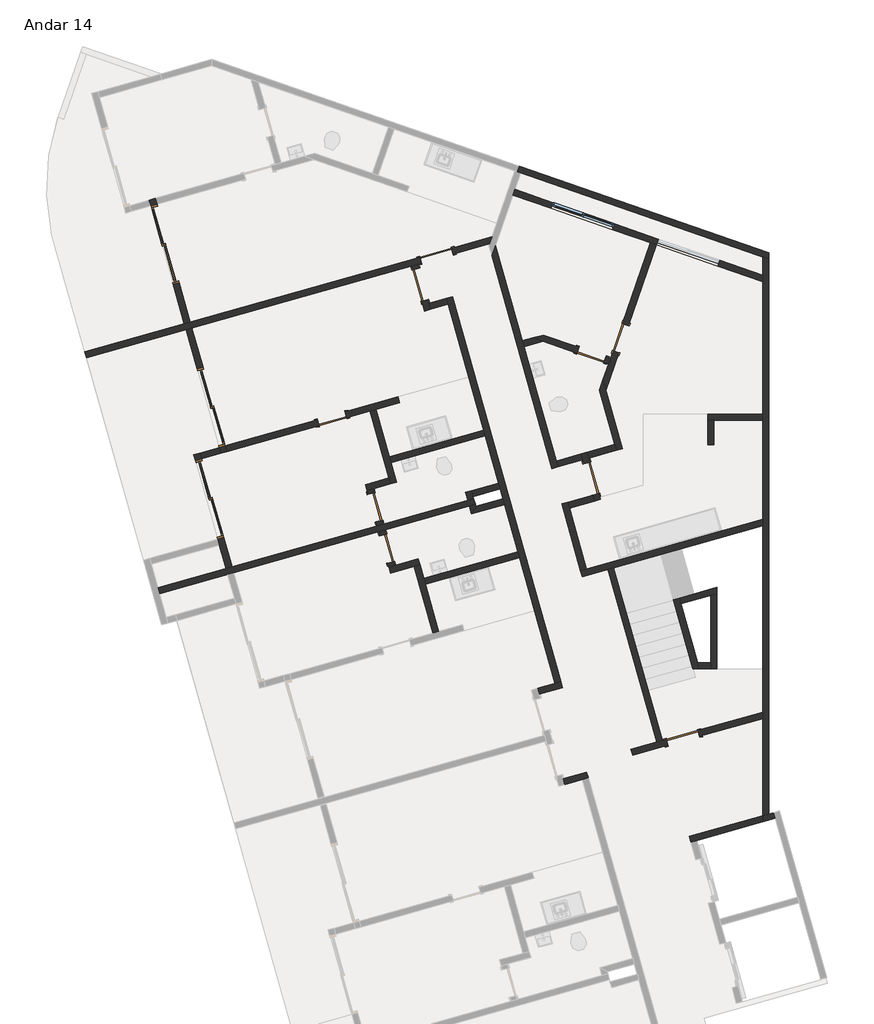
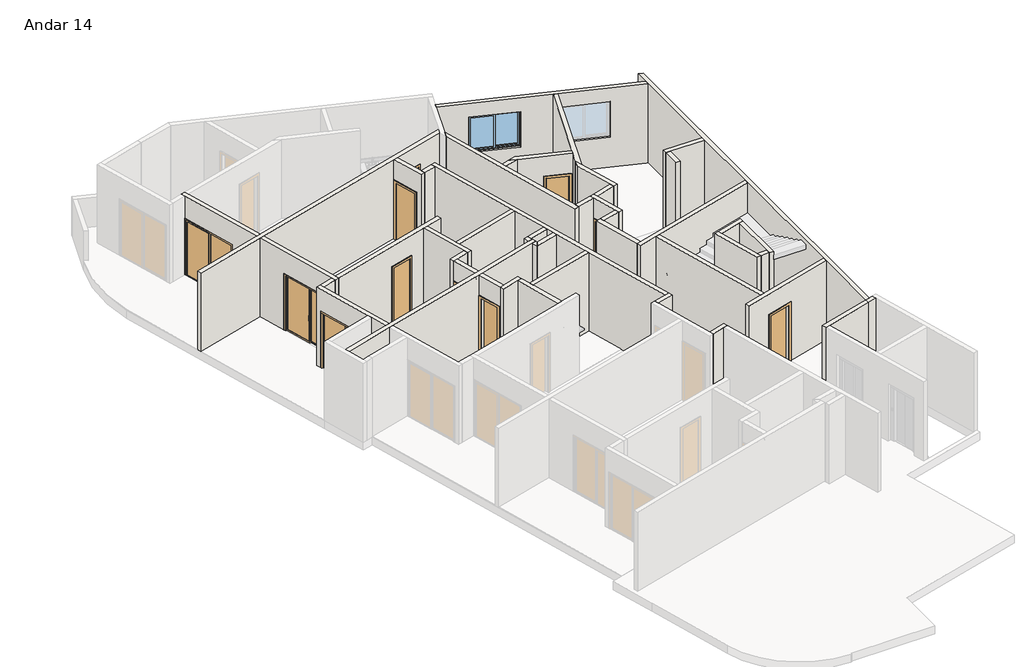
# One storey, part 2 of 3: 48 walls, 12 doors, 1 window.
"""IFC4 building model written with IfcOpenShell, lengths in millimetres."""

from ifc_helpers import new_model, si_unit, frame, origin, place, context, project, spatial, polyline, outline, extrude, faceted_brep, transform, mapped, element, save
from components import p2_80cm_9d4be4ef, p2_80cm_083652d6, p3_70cm_ef4d15e3, p3_70cm_0a698c7c, p4_correr_200cm_eaaa0877, jx_160cm_e9e36a0c

model = new_model("IFC4")

# Units and contexts
model_context = context("Model", 3, world=origin())
ifc_project = project(units=[si_unit("LENGTHUNIT", "METRE", prefix="MILLI")], contexts=[model_context])

# Site, building, storey
site = spatial("IfcSite", under=ifc_project)
building = spatial("IfcBuilding", under=site)
storey = spatial("IfcBuildingStorey", under=building, Name="Andar 14", Elevation=91350.0)

# Doors
placement = place(None, origin())
p2_80cm_shape = p2_80cm_9d4be4ef(model_context)
element("IfcDoor", 1, ObjectType="M_Folha única1 : P2 - 80CM", at=placement, inside=storey, context=model_context, shape_type="MappedRepresentation", body=[
    mapped(p2_80cm_shape, transform((-83145.1128896, 30941.0402894, 91350.0), x_axis=(-0.9623628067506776, -0.2717679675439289, 0.0), y_axis=(0.2717679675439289, -0.9623628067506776, 0.0), z_axis=(0.0, 0.0, 1.0))),
])
element("IfcDoor", 2, ObjectType="M_Folha única1 : P2 - 80CM", at=placement, inside=storey, context=model_context, shape_type="MappedRepresentation", body=[
    mapped(p2_80cm_shape, transform((-79349.4097406, 25479.1041247, 91350.0), x_axis=(-0.27176796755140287, 0.962362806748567, 0.0), y_axis=(-0.962362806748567, -0.27176796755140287, 0.0), z_axis=(0.0, 0.0, 1.0))),
])
p2_80cm_2_shape = p2_80cm_083652d6(model_context)
element("IfcDoor", 3, ObjectType="M_Folha única1 : P2 - 80CM", at=placement, inside=storey, context=model_context, shape_type="MappedRepresentation", body=[
    mapped(p2_80cm_2_shape, transform((-83542.2049222, 30231.4150941, 91350.0), x_axis=(-0.2717679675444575, 0.9623628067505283, 0.0), y_axis=(-0.9623628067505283, -0.2717679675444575, 0.0), z_axis=(0.0, 0.0, 1.0))),
])
p3_70cm_shape = p3_70cm_ef4d15e3(model_context)
element("IfcDoor", 4, ObjectType="M_Folha única1 : P3 - 70CM", at=placement, inside=storey, context=model_context, shape_type="MappedRepresentation", body=[
    mapped(p3_70cm_shape, transform((-84650.97864, 24774.7108835, 91350.0), x_axis=(0.2717679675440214, -0.9623628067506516, 0.0), y_axis=(0.9623628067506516, 0.2717679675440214, 0.0), z_axis=(0.0, 0.0, 1.0))),
])
p3_70cm_2_shape = p3_70cm_0a698c7c(model_context)
element("IfcDoor", 5, ObjectType="M_Folha única1 : P3 - 70CM", at=placement, inside=storey, context=model_context, shape_type="MappedRepresentation", body=[
    mapped(p3_70cm_2_shape, transform((-84365.6222741, 23764.2299364, 91350.0), x_axis=(-0.2717679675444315, 0.9623628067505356, 0.0), y_axis=(-0.9623628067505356, -0.2717679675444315, 0.0), z_axis=(0.0, 0.0, 1.0))),
])
element("IfcDoor", 6, ObjectType="M_Folha única1 : P3 - 70CM", at=placement, inside=storey, context=model_context, shape_type="MappedRepresentation", body=[
    mapped(p3_70cm_2_shape, transform((-85705.4317558, 26944.8211633, 91350.0), x_axis=(0.9623628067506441, 0.2717679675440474, 0.0), y_axis=(-0.2717679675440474, 0.9623628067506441, 0.0), z_axis=(0.0, 0.0, 1.0))),
])
element("IfcDoor", 7, ObjectType="M_Folha única1 : P3 - 70CM", at=placement, inside=storey, context=model_context, shape_type="MappedRepresentation", body=[
    mapped(p3_70cm_2_shape, transform((-79346.1223746, 28509.6973665, 91350.0), x_axis=(0.9449109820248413, -0.32732741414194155, 0.0), y_axis=(0.32732741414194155, 0.9449109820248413, 0.0), z_axis=(0.0, 0.0, 1.0))),
])
element("IfcDoor", 8, ObjectType="M_Folha única1 : P3 - 70CM", at=placement, inside=storey, context=model_context, shape_type="MappedRepresentation", body=[
    mapped(p3_70cm_2_shape, transform((-78626.5662556, 28921.8732895, 91350.0), x_axis=(-0.32732741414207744, -0.9449109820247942, 0.0), y_axis=(0.9449109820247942, -0.32732741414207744, 0.0), z_axis=(0.0, 0.0, 1.0))),
])
p4_correr_200cm_shape = p4_correr_200cm_eaaa0877(model_context)
element("IfcDoor", 9, ObjectType="Porta de correr dupla envidraçada sem revestimento : P4 - CORRER - 200CM", at=placement, inside=storey, context=model_context, shape_type="MappedRepresentation", body=[
    mapped(p4_correr_200cm_shape, transform((-89799.7974026, 31217.9316171, 91350.0), x_axis=(0.27176796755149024, -0.9623628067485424, 0.0), y_axis=(0.9623628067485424, 0.27176796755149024, 0.0), z_axis=(0.0, 0.0, 1.0))),
])
element("IfcDoor", 10, ObjectType="Porta de correr dupla envidraçada sem revestimento : P4 - CORRER - 200CM", at=placement, inside=storey, context=model_context, shape_type="MappedRepresentation", body=[
    mapped(p4_correr_200cm_shape, transform((-88671.9603372, 27224.125969, 91350.0), x_axis=(-0.27176796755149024, 0.9623628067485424, 0.0), y_axis=(-0.9623628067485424, -0.27176796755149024, 0.0), z_axis=(0.0, 0.0, 1.0))),
])
element("IfcDoor", 11, ObjectType="Porta de correr dupla envidraçada sem revestimento : P4 - CORRER - 200CM", at=placement, inside=storey, context=model_context, shape_type="MappedRepresentation", body=[
    mapped(p4_correr_200cm_shape, transform((-88709.3738038, 24979.4758572, 91350.0), x_axis=(-0.2717679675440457, 0.9623628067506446, 0.0), y_axis=(-0.9623628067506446, -0.2717679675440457, 0.0), z_axis=(0.0, 0.0, 1.0))),
])
element("IfcDoor", 12, ObjectType="M_Folha única1 : PCF1 - 80CM", at=placement, inside=storey, context=model_context, shape_type="MappedRepresentation", body=[
    mapped(p2_80cm_shape, transform((-77103.5502958, 19127.1105693, 91350.0), x_axis=(-0.9623628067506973, -0.2717679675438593, 0.0), y_axis=(0.2717679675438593, -0.9623628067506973, 0.0), z_axis=(0.0, 0.0, 1.0))),
])

# Walls
element("IfcWall", 13, ObjectType="Básica .15 -  Interna", at=placement, inside=storey, context=model_context, shape_type="Brep", body=[
    faceted_brep([(-82901.0804648, 29892.9118737, 91350.0), (-82860.3152697, 29748.5574527, 91350.0), (-81990.6577736, 26668.9964711, 91350.0), (-81949.8925784, 26524.6420501, 91350.0), (-81623.7710174, 25369.806682, 91350.0), (-81583.0058223, 25225.452261, 91350.0), (-81515.0638304, 24984.8615593, 91350.0), (-81474.2986352, 24840.5071383, 91350.0), (-81148.1770742, 23685.6717702, 91350.0), (-81107.4118791, 23541.3173492, 91350.0), (-80237.7543829, 20461.7563676, 91350.0), (-80237.7543829, 20461.7563676, 94250.0), (-81107.4118791, 23541.3173492, 94250.0), (-81148.1770742, 23685.6717702, 94250.0), (-81474.2986352, 24840.5071383, 94250.0), (-81515.0638304, 24984.8615593, 94250.0), (-81583.0058223, 25225.452261, 94250.0), (-81623.7710174, 25369.806682, 94250.0), (-81949.8925784, 26524.6420501, 94250.0), (-81990.6577736, 26668.9964711, 94250.0), (-82860.3152697, 29748.5574527, 94250.0), (-82901.0804648, 29892.9118737, 94250.0), (-82756.7260438, 29933.6770689, 91350.0), (-82756.7260438, 29933.6770689, 94250.0), (-80093.3999619, 20502.5215627, 94250.0), (-80093.3999619, 20502.5215627, 91350.0)], [[[0, 1, 2, 3, 4, 5, 6, 7, 8, 9, 10, 11, 12, 13, 14, 15, 16, 17, 18, 19, 20, 21]], [[22, 23, 24, 25]], [[10, 9, 8, 7, 6, 5, 4, 3, 2, 1, 0, 22, 25]], [[21, 20, 19, 18, 17, 16, 15, 14, 13, 12, 11, 24, 23]], [[0, 21, 23, 22]], [[11, 10, 25, 24]]]),
])
element("IfcWall", 14, ObjectType="Básica .15 -  Interna", at=placement, inside=storey, context=model_context, shape_type="Brep", body=[
    faceted_brep([(-83750.2661164, 30692.2138999, 91350.0), (-83723.0893197, 30595.9776193, 91350.0), (-83723.0893197, 30595.9776193, 93450.0), (-83505.6749457, 29826.0873739, 93450.0), (-83505.6749457, 29826.0873739, 91350.0), (-83437.7329538, 29585.4966722, 91350.0), (-83437.7329538, 29585.4966722, 94250.0), (-83750.2661164, 30692.2138999, 94250.0), (-83578.7348987, 30636.7428144, 93450.0), (-83578.7348987, 30636.7428144, 91350.0), (-83605.9116954, 30732.9790951, 91350.0), (-83605.9116954, 30732.9790951, 94250.0), (-83334.1437279, 29770.6162883, 94250.0), (-83293.3785328, 29626.2618673, 94250.0), (-83293.3785328, 29626.2618673, 91350.0), (-83334.1437279, 29770.6162883, 91350.0), (-83361.3205246, 29866.852569, 91350.0), (-83361.3205246, 29866.852569, 93450.0)], [[[0, 1, 2, 3, 4, 5, 6, 7]], [[8, 9, 10, 11, 12, 13, 14, 15, 16, 17]], [[10, 9, 1, 0]], [[16, 15, 14, 5, 4]], [[7, 6, 13, 12, 11]], [[6, 5, 14, 13]], [[0, 7, 11, 10]], [[2, 1, 9, 8]], [[3, 2, 8, 17]], [[4, 3, 17, 16]]]),
])
element("IfcWall", 15, ObjectType="Básica .15 -  Interna", at=placement, inside=storey, context=model_context, shape_type="SweptSolid", body=[
    extrude(outline(polyline([(-82860.3152697, 29748.5574527), (-83293.3785328, 29626.2618673), (-83334.1437279, 29770.6162883), (-82901.0804648, 29892.9118737), (-82860.3152697, 29748.5574527)])), frame((0.0, 0.0, 91350.0), z_axis=(0.0, 0.0, 1.0), x_axis=(1.0, 0.0, 0.0)), (0.0, 0.0, 1.0), 2900.0),
])
element("IfcWall", 16, ObjectType="Básica .15 -  Interna", at=placement, inside=storey, context=model_context, shape_type="Brep", body=[
    faceted_brep([(-80093.3999619, 20502.5215627, 91350.0), (-80237.7543829, 20461.7563676, 91350.0), (-80670.817646, 20339.4607822, 91350.0), (-80670.817646, 20339.4607822, 94250.0), (-80237.7543829, 20461.7563676, 94250.0), (-80093.3999619, 20502.5215627, 94250.0), (-80052.6347668, 20358.1671417, 91350.0), (-80052.6347668, 20358.1671417, 94250.0), (-80630.0524508, 20195.1063612, 94250.0), (-80630.0524508, 20195.1063612, 91350.0)], [[[0, 1, 2, 3, 4, 5]], [[6, 7, 8, 9]], [[2, 1, 0, 6, 9]], [[5, 4, 3, 8, 7]], [[3, 2, 9, 8]], [[0, 5, 7, 6]]]),
])
element("IfcWall", 17, ObjectType="Básica .15 -  Interna", at=placement, inside=storey, context=model_context, shape_type="Brep", body=[
    faceted_brep([(-80004.9861255, 17981.6719056, 91350.0), (-79571.9228624, 18103.967491, 91350.0), (-79427.5684414, 18144.7326862, 91350.0), (-79427.5684414, 18144.7326862, 94250.0), (-79571.9228624, 18103.967491, 94250.0), (-80004.9861255, 17981.6719056, 94250.0), (-80045.7513206, 18126.0263266, 91350.0), (-80045.7513206, 18126.0263266, 94250.0), (-79468.3336366, 18289.0871072, 94250.0), (-79468.3336366, 18289.0871072, 91350.0)], [[[0, 1, 2, 3, 4, 5]], [[6, 7, 8, 9]], [[2, 1, 0, 6, 9]], [[5, 4, 3, 8, 7]], [[3, 2, 9, 8]], [[0, 5, 7, 6]]]),
])
element("IfcWall", 18, ObjectType="Básica .15 -  Interna", at=placement, inside=storey, context=model_context, shape_type="Brep", body=[
    faceted_brep([(-88305.9570711, 23274.9583478, 94250.0), (-88469.0178517, 23852.3760319, 94250.0), (-88509.7830468, 23996.7304529, 94250.0), (-89094.084177, 26065.8104874, 94250.0), (-89094.084177, 26065.8104874, 91350.0), (-89053.3189819, 25921.4560664, 91350.0), (-89053.3189819, 25921.4560664, 93450.0), (-88509.7830468, 23996.7304529, 93450.0), (-88509.7830468, 23996.7304529, 91350.0), (-88469.0178517, 23852.3760319, 91350.0), (-88305.9570711, 23274.9583478, 91350.0), (-88949.729756, 26106.5756825, 94250.0), (-88908.9645609, 25962.2212615, 94250.0), (-88161.6026501, 23315.723543, 94250.0), (-88161.6026501, 23315.723543, 91350.0), (-88365.4286258, 24037.495648, 91350.0), (-88365.4286258, 24037.495648, 93450.0), (-88908.9645609, 25962.2212615, 93450.0), (-88908.9645609, 25962.2212615, 91350.0), (-88949.729756, 26106.5756825, 91350.0)], [[[0, 1, 2, 3, 4, 5, 6, 7, 8, 9, 10]], [[11, 12, 13, 14, 15, 16, 17, 18, 19]], [[4, 19, 18, 5]], [[14, 10, 9, 8, 15]], [[3, 2, 1, 0, 13, 12, 11]], [[4, 3, 11, 19]], [[0, 10, 14, 13]], [[17, 6, 5, 18]], [[6, 17, 16, 7]], [[7, 16, 15, 8]]]),
])
element("IfcWall", 19, ObjectType="Básica .15 -  Interna", at=placement, inside=storey, context=model_context, shape_type="Brep", body=[
    faceted_brep([(-89143.3190618, 29169.2341801, 94250.0), (-88328.0151592, 26282.1457598, 94250.0), (-88287.249964, 26137.7913388, 94250.0), (-88287.249964, 26137.7913388, 91350.0), (-88328.0151592, 26282.1457598, 91350.0), (-88328.0151592, 26282.1457598, 93450.0), (-88871.5510943, 28206.8713733, 93450.0), (-88871.5510943, 28206.8713733, 91350.0), (-89143.3190618, 29169.2341801, 91350.0), (-88431.604385, 26097.0261437, 94250.0), (-88472.3695802, 26241.3805647, 94250.0), (-89287.6734828, 29128.468985, 94250.0), (-89287.6734828, 29128.468985, 91350.0), (-89015.9055153, 28166.1061782, 91350.0), (-89015.9055153, 28166.1061782, 93450.0), (-88472.3695802, 26241.3805647, 93450.0), (-88472.3695802, 26241.3805647, 91350.0), (-88431.604385, 26097.0261437, 91350.0)], [[[0, 1, 2, 3, 4, 5, 6, 7, 8]], [[9, 10, 11, 12, 13, 14, 15, 16, 17]], [[3, 17, 16, 4]], [[12, 8, 7, 13]], [[2, 1, 0, 11, 10, 9]], [[3, 2, 9, 17]], [[0, 8, 12, 11]], [[6, 14, 13, 7]], [[14, 6, 5, 15]], [[15, 5, 4, 16]]]),
])
element("IfcWall", 20, ObjectType="Básica .15 -  Interna", at=placement, inside=storey, context=model_context, shape_type="Brep", body=[
    faceted_brep([(-76904.7538909, 16570.3643175, 91350.0), (-76760.3994699, 16611.1295126, 91350.0), (-75147.8282189, 17066.5141226, 91350.0), (-75147.8282189, 17066.5141226, 94250.0), (-76760.3994699, 16611.1295126, 94250.0), (-76904.7538909, 16570.3643175, 94250.0), (-76945.5190861, 16714.7187385, 91350.0), (-76945.5190861, 16714.7187385, 94250.0), (-75147.8282189, 17222.3804954, 94250.0), (-75147.8282189, 17222.3804954, 91350.0)], [[[0, 1, 2, 3, 4, 5]], [[6, 7, 8, 9]], [[2, 1, 0, 6, 9]], [[5, 4, 3, 8, 7]], [[0, 5, 7, 6]], [[3, 2, 9, 8]]]),
])
element("IfcWall", 21, ObjectType="Básica .15 -  Interna", at=placement, inside=storey, context=model_context, shape_type="Brep", body=[
    faceted_brep([(-79570.9048554, 23078.5590693, 91350.0), (-78948.2127609, 23254.4051886, 91350.0), (-78803.8582924, 23295.1703972, 91350.0), (-75147.8282189, 24327.6207947, 91350.0), (-75147.8282189, 24327.6207947, 94250.0), (-78803.8582924, 23295.1703972, 94250.0), (-78948.2127609, 23254.4051886, 94250.0), (-79570.9048554, 23078.5590693, 94250.0), (-79611.6700506, 23222.9134903, 91350.0), (-79611.6700506, 23222.9134903, 94250.0), (-79467.3156296, 23263.6786855, 94250.0), (-75147.8282189, 24483.4871675, 94250.0), (-75147.8282189, 24483.4871675, 91350.0), (-79467.3156296, 23263.6786855, 91350.0)], [[[0, 1, 2, 3, 4, 5, 6, 7]], [[8, 9, 10, 11, 12, 13]], [[3, 2, 1, 0, 8, 13, 12]], [[7, 6, 5, 4, 11, 10, 9]], [[0, 7, 9, 8]], [[4, 3, 12, 11]]]),
])
element("IfcWall", 22, ObjectType="Básica .15 -  Interna", at=placement, inside=storey, context=model_context, shape_type="SweptSolid", body=[
    extrude(outline(polyline([(-77749.4687652, 19022.6385875), (-78948.2127609, 23254.4051886), (-78803.8582924, 23295.1703972), (-77605.1142967, 19063.4037961), (-77749.4687652, 19022.6385875)])), frame((0.0, 0.0, 91350.0), z_axis=(0.0, 0.0, 1.0), x_axis=(1.0, 0.0, 0.0)), (0.0, 0.0, 1.0), 2900.0),
])
element("IfcWall", 23, ObjectType="Básica .15 -  Interna", at=placement, inside=storey, context=model_context, shape_type="Brep", body=[
    faceted_brep([(-77508.878016, 19090.5805928, 93450.0), (-77508.878016, 19090.5805928, 91350.0), (-77605.1142967, 19063.4037961, 91350.0), (-77749.4687652, 19022.6385875, 91350.0), (-78375.5945972, 18845.8227925, 91350.0), (-78375.5945972, 18845.8227925, 94250.0), (-77749.4687652, 19022.6385875, 94250.0), (-77605.1142967, 19063.4037961, 94250.0), (-75147.8282189, 19757.3329862, 94250.0), (-75147.8282189, 19757.3329862, 91350.0), (-76738.9877706, 19307.9949669, 91350.0), (-76738.9877706, 19307.9949669, 93450.0), (-78334.829402, 18701.4683715, 91350.0), (-77468.1128209, 18946.2261718, 91350.0), (-77468.1128209, 18946.2261718, 93450.0), (-76698.2225755, 19163.6405459, 93450.0), (-76698.2225755, 19163.6405459, 91350.0), (-75147.8282189, 19601.4666134, 91350.0), (-75147.8282189, 19601.4666134, 94250.0), (-78334.829402, 18701.4683715, 94250.0)], [[[0, 1, 2, 3, 4, 5, 6, 7, 8, 9, 10, 11]], [[12, 13, 14, 15, 16, 17, 18, 19]], [[10, 9, 17, 16]], [[4, 3, 2, 1, 13, 12]], [[5, 4, 12, 19]], [[8, 7, 6, 5, 19, 18]], [[14, 13, 1, 0]], [[15, 14, 0, 11]], [[16, 15, 11, 10]], [[9, 8, 18, 17]]]),
])
element("IfcWall", 24, ObjectType="Básica .15 - Externa", at=placement, inside=storey, context=model_context, shape_type="Brep", body=[
    faceted_brep([(-75147.8282189, 30909.9128092, 91350.0), (-75147.8282189, 30461.6117638, 91350.0), (-75147.8282189, 30302.8666514, 91350.0), (-75147.8282189, 27060.8243598, 91350.0), (-75147.8282189, 26910.8243598, 91350.0), (-75147.8282189, 24483.4871675, 91350.0), (-75147.8282189, 24327.6207947, 91350.0), (-75147.8282189, 19757.3329862, 91350.0), (-75147.8282189, 19601.4666134, 91350.0), (-75147.8282189, 17222.3804954, 91350.0), (-75147.8282189, 17222.3804954, 94250.0), (-75147.8282189, 19601.4666134, 94250.0), (-75147.8282189, 19757.3329862, 94250.0), (-75147.8282189, 24327.6207947, 94250.0), (-75147.8282189, 24483.4871675, 94250.0), (-75147.8282189, 26910.8243598, 94250.0), (-75147.8282189, 27060.8243598, 94250.0), (-75147.8282189, 30302.8666514, 94250.0), (-75147.8282189, 30461.6117638, 94250.0), (-75147.8282189, 30909.9128092, 94250.0), (-74997.8282189, 30857.9511821, 91350.0), (-74997.8282189, 30857.9511821, 92650.0), (-74997.8282189, 30857.9511821, 94250.0), (-74997.8282189, 17264.7399828, 94250.0), (-74997.8282189, 17264.7399828, 91350.0)], [[[0, 1, 2, 3, 4, 5, 6, 7, 8, 9, 10, 11, 12, 13, 14, 15, 16, 17, 18, 19]], [[20, 21, 22, 23, 24]], [[9, 8, 7, 6, 5, 4, 3, 2, 1, 0, 20, 24]], [[19, 18, 17, 16, 15, 14, 13, 12, 11, 10, 23, 22]], [[10, 9, 24, 23]], [[0, 19, 22, 21, 20]]]),
])
element("IfcWall", 25, ObjectType="Básica .15 -  Interna", at=placement, inside=storey, context=model_context, shape_type="Brep", body=[
    faceted_brep([(-80073.6755954, 24858.9302618, 91350.0), (-79611.6700506, 23222.9134903, 91350.0), (-79611.6700506, 23222.9134903, 94250.0), (-80073.6755954, 24858.9302618, 94250.0), (-79929.3211744, 24899.695457, 91350.0), (-79929.3211744, 24899.695457, 94250.0), (-79888.5559793, 24755.3410359, 94250.0), (-79467.3156296, 23263.6786855, 94250.0), (-79467.3156296, 23263.6786855, 91350.0), (-79888.5559793, 24755.3410359, 91350.0)], [[[0, 1, 2, 3]], [[4, 5, 6, 7, 8, 9]], [[1, 0, 4, 9, 8]], [[3, 2, 7, 6, 5]], [[0, 3, 5, 4]], [[2, 1, 8, 7]]]),
])
element("IfcWall", 26, ObjectType="Básica .15 -  Interna", at=placement, inside=storey, context=model_context, shape_type="Brep", body=[
    faceted_brep([(-79888.5559793, 24755.3410359, 91350.0), (-79272.1145689, 24929.4219834, 91350.0), (-79272.1145689, 24929.4219834, 94250.0), (-79888.5559793, 24755.3410359, 94250.0), (-79929.3211744, 24899.695457, 91350.0), (-79929.3211744, 24899.695457, 94250.0), (-79312.8797641, 25073.7764044, 94250.0), (-79312.8797641, 25073.7764044, 93450.0), (-79312.8797641, 25073.7764044, 91350.0)], [[[0, 1, 2, 3]], [[4, 5, 6, 7, 8]], [[1, 0, 4, 8]], [[3, 2, 6, 5]], [[0, 3, 5, 4]], [[2, 1, 8, 7, 6]]]),
])
element("IfcWall", 27, ObjectType="Básica .15 -  Interna", at=placement, inside=storey, context=model_context, shape_type="Brep", body=[
    faceted_brep([(-79598.23613, 26084.2573515, 91350.0), (-79557.4709349, 25939.9029305, 91350.0), (-79530.2941381, 25843.6666498, 91350.0), (-79530.2941381, 25843.6666498, 93450.0), (-79312.8797641, 25073.7764044, 93450.0), (-79312.8797641, 25073.7764044, 91350.0), (-79272.1145689, 24929.4219834, 91350.0), (-79272.1145689, 24929.4219834, 94250.0), (-79312.8797641, 25073.7764044, 94250.0), (-79557.4709349, 25939.9029305, 94250.0), (-79598.23613, 26084.2573515, 94250.0), (-79385.9397171, 25884.4318449, 93450.0), (-79385.9397171, 25884.4318449, 91350.0), (-79413.1165138, 25980.6681256, 91350.0), (-79453.881709, 26125.0225466, 91350.0), (-79453.881709, 26125.0225466, 94250.0), (-79413.1165138, 25980.6681256, 94250.0), (-79127.7601479, 24970.1871785, 94250.0), (-79127.7601479, 24970.1871785, 91350.0), (-79168.5253431, 25114.5415995, 91350.0), (-79168.5253431, 25114.5415995, 93450.0)], [[[0, 1, 2, 3, 4, 5, 6, 7, 8, 9, 10]], [[11, 12, 13, 14, 15, 16, 17, 18, 19, 20]], [[19, 18, 6, 5]], [[14, 13, 12, 2, 1, 0]], [[10, 9, 8, 7, 17, 16, 15]], [[7, 6, 18, 17]], [[0, 10, 15, 14]], [[3, 2, 12, 11]], [[4, 3, 11, 20]], [[5, 4, 20, 19]]]),
])
element("IfcWall", 28, ObjectType="Básica .15 -  Interna", at=placement, inside=storey, context=model_context, shape_type="Brep", body=[
    faceted_brep([(-81789.2550074, 30934.0017027, 91350.0), (-80318.2667662, 25725.0567879, 91350.0), (-80318.2667662, 25725.0567879, 94250.0), (-81789.2550074, 30934.0017027, 94250.0), (-81703.3880158, 31181.8778654, 91350.0), (-81703.3880158, 31181.8778654, 94250.0), (-81045.1503443, 28850.9797144, 94250.0), (-81004.3851492, 28706.6252933, 94250.0), (-80214.6775403, 25910.176404, 94250.0), (-80173.9123452, 25765.821983, 94250.0), (-80173.9123452, 25765.821983, 91350.0), (-80214.6775403, 25910.176404, 91350.0), (-81004.3851492, 28706.6252933, 91350.0), (-81045.1503443, 28850.9797144, 91350.0)], [[[0, 1, 2, 3]], [[4, 5, 6, 7, 8, 9, 10, 11, 12, 13]], [[1, 0, 4, 13, 12, 11, 10]], [[3, 2, 9, 8, 7, 6, 5]], [[0, 3, 5, 4]], [[2, 1, 10, 9]]]),
])
element("IfcWall", 29, ObjectType="Básica .15 -  Interna", at=placement, inside=storey, context=model_context, shape_type="Brep", body=[
    faceted_brep([(-88908.9645609, 25962.2212615, 91350.0), (-88431.604385, 26097.0261437, 91350.0), (-88431.604385, 26097.0261437, 94250.0), (-88908.9645609, 25962.2212615, 94250.0), (-88908.9645609, 25962.2212615, 93450.0), (-88949.729756, 26106.5756825, 91350.0), (-88949.729756, 26106.5756825, 94250.0), (-88472.3695802, 26241.3805647, 94250.0), (-88472.3695802, 26241.3805647, 91350.0)], [[[0, 1, 2, 3, 4]], [[5, 6, 7, 8]], [[1, 0, 5, 8]], [[3, 2, 7, 6]], [[0, 4, 3, 6, 5]], [[2, 1, 8, 7]]]),
])
element("IfcWall", 30, ObjectType="Básica .15 -  Interna", at=placement, inside=storey, context=model_context, shape_type="SweptSolid", body=[
    extrude(outline(polyline([(-79557.4709349, 25939.9029305), (-80173.9123452, 25765.821983), (-80214.6775403, 25910.176404), (-79598.23613, 26084.2573515), (-79557.4709349, 25939.9029305)])), frame((0.0, 0.0, 91350.0), z_axis=(0.0, 0.0, 1.0), x_axis=(1.0, 0.0, 0.0)), (0.0, 0.0, 1.0), 2900.0),
])
element("IfcWall", 31, ObjectType="Básica .15 -  Interna", at=placement, inside=storey, context=model_context, shape_type="Brep", body=[
    faceted_brep([(-91725.2428613, 28440.1077234, 91350.0), (-89287.6734828, 29128.468985, 91350.0), (-89143.3190618, 29169.2341801, 91350.0), (-83750.2661164, 30692.2138999, 91350.0), (-83605.9116954, 30732.9790951, 91350.0), (-83509.6754148, 30760.1558918, 91350.0), (-83509.6754148, 30760.1558918, 93450.0), (-82739.7851694, 30977.5702659, 93450.0), (-82739.7851694, 30977.5702659, 91350.0), (-81845.4155775, 31230.1371819, 91350.0), (-81845.4155775, 31230.1371819, 94250.0), (-83605.9116954, 30732.9790951, 94250.0), (-83750.2661164, 30692.2138999, 94250.0), (-89143.3190618, 29169.2341801, 94250.0), (-89287.6734828, 29128.468985, 94250.0), (-91725.2428613, 28440.1077234, 94250.0), (-83550.4406099, 30904.5103128, 93450.0), (-83550.4406099, 30904.5103128, 91350.0), (-89184.084257, 29313.5886011, 91350.0), (-89328.438678, 29272.823406, 91350.0), (-91766.0080564, 28584.4621444, 91350.0), (-91766.0080564, 28584.4621444, 94250.0), (-89328.438678, 29272.823406, 94250.0), (-89184.084257, 29313.5886011, 94250.0), (-81785.5670817, 31402.9045654, 94250.0), (-81785.5670817, 31402.9045654, 91350.0), (-82780.5503645, 31121.9246869, 91350.0), (-82780.5503645, 31121.9246869, 93450.0)], [[[0, 1, 2, 3, 4, 5, 6, 7, 8, 9, 10, 11, 12, 13, 14, 15]], [[16, 17, 18, 19, 20, 21, 22, 23, 24, 25, 26, 27]], [[26, 25, 9, 8]], [[20, 19, 18, 17, 5, 4, 3, 2, 1, 0]], [[15, 14, 13, 12, 11, 10, 24, 23, 22, 21]], [[0, 15, 21, 20]], [[10, 9, 25, 24]], [[6, 5, 17, 16]], [[7, 6, 16, 27]], [[8, 7, 27, 26]]]),
])
element("IfcWall", 32, ObjectType="Básica .15 -  Interna", at=placement, inside=storey, context=model_context, shape_type="Brep", body=[
    faceted_brep([(-90040.1533547, 32345.0314424, 94250.0), (-89999.3881596, 32200.6770214, 94250.0), (-89184.084257, 29313.5886011, 94250.0), (-89184.084257, 29313.5886011, 91350.0), (-89455.8522245, 30275.9514079, 91350.0), (-89455.8522245, 30275.9514079, 93450.0), (-89999.3881596, 32200.6770214, 93450.0), (-89999.3881596, 32200.6770214, 91350.0), (-90040.1533547, 32345.0314424, 91350.0), (-89328.438678, 29272.823406, 94250.0), (-90143.7425806, 32159.9118263, 94250.0), (-90184.5077758, 32304.2662473, 94250.0), (-90184.5077758, 32304.2662473, 91350.0), (-90143.7425806, 32159.9118262, 91350.0), (-90143.7425806, 32159.9118262, 93450.0), (-89600.2066455, 30235.1862128, 93450.0), (-89600.2066455, 30235.1862128, 91350.0), (-89328.438678, 29272.823406, 91350.0)], [[[0, 1, 2, 3, 4, 5, 6, 7, 8]], [[9, 10, 11, 12, 13, 14, 15, 16, 17]], [[12, 8, 7, 13]], [[3, 17, 16, 4]], [[2, 1, 0, 11, 10, 9]], [[0, 8, 12, 11]], [[3, 2, 9, 17]], [[15, 5, 4, 16]], [[5, 15, 14, 6]], [[6, 14, 13, 7]]]),
])
element("IfcWall", 33, ObjectType="Básica .15 -  Interna", at=placement, inside=storey, context=model_context, shape_type="Brep", body=[
    faceted_brep([(-89936.6922366, 22658.5779377, 91350.0), (-88265.191876, 23130.6039268, 91350.0), (-88120.837455, 23171.369122, 91350.0), (-84560.09507, 24176.9106019, 91350.0), (-84415.740649, 24217.675797, 91350.0), (-82192.6825654, 24845.459802, 91350.0), (-82192.6825654, 24845.459802, 94250.0), (-84415.740649, 24217.675797, 94250.0), (-84560.09507, 24176.9106019, 94250.0), (-88120.837455, 23171.369122, 94250.0), (-88265.191876, 23130.6039268, 94250.0), (-89936.6922366, 22658.5779377, 94250.0), (-89977.4574318, 22802.9323587, 91350.0), (-89977.4574318, 22802.9323587, 94250.0), (-88305.9570711, 23274.9583478, 94250.0), (-88161.6026501, 23315.723543, 94250.0), (-84600.8602651, 24321.2650229, 94250.0), (-84456.5058441, 24362.030218, 94250.0), (-82233.4477605, 24989.814223, 94250.0), (-82233.4477605, 24989.814223, 91350.0), (-84456.5058441, 24362.030218, 91350.0), (-84600.8602651, 24321.2650229, 91350.0), (-88161.6026501, 23315.723543, 91350.0), (-88305.9570711, 23274.9583478, 91350.0)], [[[0, 1, 2, 3, 4, 5, 6, 7, 8, 9, 10, 11]], [[12, 13, 14, 15, 16, 17, 18, 19, 20, 21, 22, 23]], [[5, 4, 3, 2, 1, 0, 12, 23, 22, 21, 20, 19]], [[6, 5, 19, 18]], [[11, 10, 9, 8, 7, 6, 18, 17, 16, 15, 14, 13]], [[0, 11, 13, 12]]]),
])
element("IfcWall", 34, ObjectType="Básica .15 -  Interna", at=placement, inside=storey, context=model_context, shape_type="Brep", body=[
    faceted_brep([(-81272.8781344, 32424.6503839, 91350.0), (-77897.5766162, 31255.4093243, 91350.0), (-77755.8399689, 31206.3102121, 91350.0), (-75147.8282189, 30302.8666514, 91350.0), (-75147.8282189, 30302.8666514, 94250.0), (-77755.8399689, 31206.3102121, 94250.0), (-77897.5766162, 31255.4093243, 94250.0), (-81272.8781344, 32424.6503839, 94250.0), (-78829.2985897, 31578.1679228, 92450.0), (-80341.1561609, 32101.8917854, 92450.0), (-80341.1561609, 32101.8917854, 93750.0), (-78829.2985897, 31578.1679228, 93750.0), (-76243.9823976, 30682.5863495, 92450.0), (-77755.8399689, 31206.3102121, 92450.0), (-77755.8399689, 31206.3102121, 93750.0), (-76243.9823976, 30682.5863495, 93750.0), (-81223.7790223, 32566.3870312, 91350.0), (-81223.7790223, 32566.3870312, 94250.0), (-75147.8282189, 30461.6117638, 94250.0), (-75147.8282189, 30461.6117638, 91350.0), (-78780.1994776, 31719.9045701, 92450.0), (-78780.1994776, 31719.9045701, 93750.0), (-80292.0570488, 32243.6284327, 93750.0), (-80292.0570488, 32243.6284327, 92450.0), (-76194.8832855, 30824.3229968, 92450.0), (-76194.8832855, 30824.3229968, 93750.0), (-77706.7408568, 31348.0468595, 93750.0), (-77706.7408568, 31348.0468595, 92450.0)], [[[0, 1, 2, 3, 4, 5, 6, 7], [8, 9, 10, 11], [12, 13, 14, 15]], [[16, 17, 18, 19], [20, 21, 22, 23], [24, 25, 26, 27]], [[3, 2, 1, 0, 16, 19]], [[7, 6, 5, 4, 18, 17]], [[0, 7, 17, 16]], [[21, 20, 8, 11]], [[22, 21, 11, 10]], [[23, 22, 10, 9]], [[20, 23, 9, 8]], [[25, 24, 12, 15]], [[26, 25, 15, 14]], [[27, 26, 14, 13]], [[24, 27, 13, 12]], [[4, 3, 19, 18]]]),
])
element("IfcWall", 35, ObjectType="Básica .15 - Externa", at=placement, inside=storey, context=model_context, shape_type="Brep", body=[
    faceted_brep([(-81156.3583355, 32991.3328194, 92650.0), (-81156.3583355, 32991.3328194, 91350.0), (-81156.3583355, 32991.3328194, 91050.0), (-81085.1216301, 32966.655652, 91050.0), (-74997.8282189, 30857.9511821, 91050.0), (-74997.8282189, 30857.9511821, 91350.0), (-74997.8282189, 30857.9511821, 92650.0), (-81085.1216301, 32966.655652, 92650.0), (-81107.2592234, 33133.0694667, 91050.0), (-81107.2592234, 33133.0694667, 91350.0), (-81107.2592234, 33133.0694667, 92650.0), (-81036.022518, 33108.3922993, 92650.0), (-74997.8282189, 31016.6962944, 92650.0), (-74997.8282189, 31016.6962944, 91050.0), (-81036.022518, 33108.3922993, 91050.0)], [[[0, 1, 2, 3, 4, 5, 6, 7]], [[8, 9, 10, 11, 12, 13, 14]], [[4, 3, 2, 8, 14, 13]], [[0, 7, 6, 12, 11, 10]], [[0, 10, 9, 8, 2, 1]], [[4, 13, 12, 6, 5]]]),
])
element("IfcWall", 36, ObjectType="Básica .15 -  Interna", at=placement, inside=storey, context=model_context, shape_type="SweptSolid", body=[
    extrude(outline(polyline([(-82179.094167, 24797.3416617), (-81515.0638304, 24984.8615593), (-81474.2986352, 24840.5071383), (-82282.6833929, 24612.2220455), (-82179.094167, 24797.3416617)])), frame((0.0, 0.0, 91350.0), z_axis=(0.0, 0.0, 1.0), x_axis=(1.0, 0.0, 0.0)), (0.0, 0.0, 1.0), 2900.0),
])
element("IfcWall", 37, ObjectType="Básica .15 -  Interna", at=placement, inside=storey, context=model_context, shape_type="SweptSolid", body=[
    extrude(outline(polyline([(-82192.6825654, 24845.459802), (-82179.094167, 24797.3416617), (-82282.6833929, 24612.2220455), (-82337.0369864, 24804.6946069), (-82192.6825654, 24845.459802)])), frame((0.0, 0.0, 91350.0), z_axis=(0.0, 0.0, 1.0), x_axis=(1.0, 0.0, 0.0)), (0.0, 0.0, 1.0), 2900.0),
])
element("IfcWall", 38, ObjectType="Básica .15 -  Interna", at=placement, inside=storey, context=model_context, shape_type="Brep", body=[
    faceted_brep([(-83593.7317942, 23514.6100515, 91350.0), (-84171.1494782, 23351.5492709, 91350.0), (-84315.5038992, 23310.7840758, 91350.0), (-84315.5038992, 23310.7840758, 94250.0), (-84171.1494782, 23351.5492709, 94250.0), (-83593.7317942, 23514.6100515, 94250.0), (-83552.966599, 23370.2556304, 91350.0), (-83552.966599, 23370.2556304, 94250.0), (-83697.32102, 23329.4904353, 94250.0), (-84274.7387041, 23166.4296548, 94250.0), (-84274.7387041, 23166.4296548, 91350.0), (-83697.32102, 23329.4904353, 91350.0)], [[[0, 1, 2, 3, 4, 5]], [[6, 7, 8, 9, 10, 11]], [[2, 1, 0, 6, 11, 10]], [[5, 4, 3, 9, 8, 7]], [[0, 5, 7, 6]], [[3, 2, 10, 9]]]),
])
element("IfcWall", 39, ObjectType="Básica .15 -  Interna", at=placement, inside=storey, context=model_context, shape_type="Brep", body=[
    faceted_brep([(-83090.9610542, 21734.238859, 91350.0), (-83417.0826153, 22889.0742271, 91350.0), (-83457.8478104, 23033.4286481, 91350.0), (-83552.966599, 23370.2556304, 91350.0), (-83552.966599, 23370.2556304, 94250.0), (-83457.8478104, 23033.4286481, 94250.0), (-83417.0826153, 22889.0742271, 94250.0), (-83090.9610542, 21734.238859, 94250.0), (-83235.3154752, 21693.4736638, 91350.0), (-83235.3154752, 21693.4736638, 94250.0), (-83697.32102, 23329.4904353, 94250.0), (-83697.32102, 23329.4904353, 91350.0)], [[[0, 1, 2, 3, 4, 5, 6, 7]], [[8, 9, 10, 11]], [[3, 2, 1, 0, 8, 11]], [[7, 6, 5, 4, 10, 9]], [[0, 7, 9, 8]], [[4, 3, 11, 10]]]),
])
element("IfcWall", 40, ObjectType="Básica .15 -  Interna", at=placement, inside=storey, context=model_context, shape_type="SweptSolid", body=[
    extrude(outline(polyline([(-83457.8478104, 23033.4286481), (-81148.1770742, 23685.6717702), (-81107.4118791, 23541.3173492), (-83417.0826153, 22889.0742271), (-83457.8478104, 23033.4286481)])), frame((0.0, 0.0, 91350.0), z_axis=(0.0, 0.0, 1.0), x_axis=(1.0, 0.0, 0.0)), (0.0, 0.0, 1.0), 2900.0),
])
element("IfcWall", 41, ObjectType="Básica .15 -  Interna", at=placement, inside=storey, context=model_context, shape_type="SweptSolid", body=[
    extrude(outline(polyline([(150.0, 0.0), (250.0, 0.0), (250.0, -2100.0), (950.0, -2100.0), (950.0, 0.0), (1050.0, 0.0), (1050.0, -2900.0), (150.0, -2900.0), (150.0, 0.0)])), frame((-84600.8602651, 24321.2650229, 91350.0), z_axis=(0.9623628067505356, 0.2717679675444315, 0.0), x_axis=(0.2717679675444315, -0.9623628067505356, 0.0)), (0.0, 0.0, 1.0), 150.0),
])
element("IfcWall", 42, ObjectType="Básica .15 -  Interna", at=placement, inside=storey, context=model_context, shape_type="Brep", body=[
    faceted_brep([(-84770.8044918, 27130.823522, 91350.0), (-84308.798947, 25494.8067505, 91350.0), (-84268.0337519, 25350.4523295, 91350.0), (-84268.0337519, 25350.4523295, 94250.0), (-84308.798947, 25494.8067505, 94250.0), (-84770.8044918, 27130.823522, 94250.0), (-84626.4500708, 27171.5887171, 91350.0), (-84626.4500708, 27171.5887171, 94250.0), (-84300.3285098, 26016.753349, 94250.0), (-84259.5633146, 25872.398928, 94250.0), (-84123.6793309, 25391.2175246, 94250.0), (-84123.6793309, 25391.2175246, 91350.0), (-84259.5633146, 25872.398928, 91350.0), (-84300.3285098, 26016.753349, 91350.0)], [[[0, 1, 2, 3, 4, 5]], [[6, 7, 8, 9, 10, 11, 12, 13]], [[2, 1, 0, 6, 13, 12, 11]], [[5, 4, 3, 10, 9, 8, 7]], [[3, 2, 11, 10]], [[0, 5, 7, 6]]]),
])
element("IfcWall", 43, ObjectType="Básica .15 -  Interna", at=placement, inside=storey, context=model_context, shape_type="SweptSolid", body=[
    extrude(outline(polyline([(-84300.3285098, 26016.753349), (-81990.6577736, 26668.9964711), (-81949.8925784, 26524.6420501), (-84259.5633146, 25872.398928), (-84300.3285098, 26016.753349)])), frame((0.0, 0.0, 91350.0), z_axis=(0.0, 0.0, 1.0), x_axis=(1.0, 0.0, 0.0)), (0.0, 0.0, 1.0), 2900.0),
])
element("IfcWall", 44, ObjectType="Básica .15 -  Interna", at=placement, inside=storey, context=model_context, shape_type="Brep", body=[
    faceted_brep([(-84308.798947, 25494.8067505, 91350.0), (-84886.2166311, 25331.74597, 91350.0), (-84886.2166311, 25331.74597, 94250.0), (-84308.798947, 25494.8067505, 94250.0), (-84268.0337519, 25350.4523295, 91350.0), (-84268.0337519, 25350.4523295, 94250.0), (-84701.0970149, 25228.1567441, 94250.0), (-84845.4514359, 25187.391549, 94250.0), (-84845.4514359, 25187.391549, 91350.0), (-84701.0970149, 25228.1567441, 91350.0)], [[[0, 1, 2, 3]], [[4, 5, 6, 7, 8, 9]], [[1, 0, 4, 9, 8]], [[3, 2, 7, 6, 5]], [[2, 1, 8, 7]], [[0, 3, 5, 4]]]),
])
element("IfcWall", 45, ObjectType="Básica .15 -  Interna", at=placement, inside=storey, context=model_context, shape_type="SweptSolid", body=[
    extrude(outline(polyline([(800.0, -2100.0), (800.0, 0.0), (900.0, 0.0), (900.0, -2900.0), (0.0, -2900.0), (0.0, 0.0), (100.0, 0.0), (100.0, -2100.0), (800.0, -2100.0)])), frame((-84845.4514359, 25187.391549, 91350.0), z_axis=(0.9623628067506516, 0.2717679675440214, 0.0), x_axis=(0.2717679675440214, -0.9623628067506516, 0.0)), (0.0, 0.0, 1.0), 150.0),
])
element("IfcWall", 46, ObjectType="Básica .15 -  Interna", at=placement, inside=storey, context=model_context, shape_type="Brep", body=[
    faceted_brep([(-82432.1557751, 25141.5215893, 91350.0), (-82377.8021816, 24949.0490279, 91350.0), (-82377.8021816, 24949.0490279, 94250.0), (-82432.1557751, 25141.5215893, 94250.0), (-82287.801354, 25182.2867844, 91350.0), (-82287.801354, 25182.2867844, 94250.0), (-82247.0361589, 25037.9323634, 94250.0), (-82233.4477605, 24989.814223, 94250.0), (-82233.4477605, 24989.814223, 91350.0), (-82247.0361589, 25037.9323634, 91350.0)], [[[0, 1, 2, 3]], [[4, 5, 6, 7, 8, 9]], [[1, 0, 4, 9, 8]], [[2, 1, 8, 7]], [[3, 2, 7, 6, 5]], [[0, 3, 5, 4]]]),
])
element("IfcWall", 47, ObjectType="Básica .15 -  Interna", at=placement, inside=storey, context=model_context, shape_type="SweptSolid", body=[
    extrude(outline(polyline([(-81583.0058223, 25225.452261), (-82247.0361589, 25037.9323634), (-82287.801354, 25182.2867844), (-81623.7710174, 25369.806682), (-81583.0058223, 25225.452261)])), frame((0.0, 0.0, 91350.0), z_axis=(0.0, 0.0, 1.0), x_axis=(1.0, 0.0, 0.0)), (0.0, 0.0, 1.0), 2900.0),
])
element("IfcWall", 48, ObjectType="Básica .15 -  Interna", at=placement, inside=storey, context=model_context, shape_type="Brep", body=[
    faceted_brep([(-76493.6479314, 26910.8243598, 91350.0), (-76343.6479314, 26910.8243598, 91350.0), (-75147.8282189, 26910.8243598, 91350.0), (-75147.8282189, 26910.8243598, 94250.0), (-76343.6479314, 26910.8243598, 94250.0), (-76493.6479314, 26910.8243598, 94250.0), (-76493.6479314, 27060.8243598, 91350.0), (-76493.6479314, 27060.8243598, 94250.0), (-75147.8282189, 27060.8243598, 94250.0), (-75147.8282189, 27060.8243598, 91350.0)], [[[0, 1, 2, 3, 4, 5]], [[6, 7, 8, 9]], [[2, 1, 0, 6, 9]], [[5, 4, 3, 8, 7]], [[0, 5, 7, 6]], [[3, 2, 9, 8]]]),
])
element("IfcWall", 49, ObjectType="Básica .15 -  Interna", at=placement, inside=storey, context=model_context, shape_type="SweptSolid", body=[
    extrude(outline(polyline([(-76343.6479314, 26910.8243598), (-76343.6479314, 26310.8243598), (-76493.6479314, 26310.8243598), (-76493.6479314, 26910.8243598), (-76343.6479314, 26910.8243598)])), frame((0.0, 0.0, 91350.0), z_axis=(0.0, 0.0, 1.0), x_axis=(1.0, 0.0, 0.0)), (0.0, 0.0, 1.0), 2900.0),
])
element("IfcWall", 50, ObjectType="Básica .15 -  Interna", at=placement, inside=storey, context=model_context, shape_type="Brep", body=[
    faceted_brep([(-78877.464657, 28426.7218055, 91350.0), (-78990.8539749, 28466.0010952, 91350.0), (-78990.8539749, 28466.0010952, 93450.0), (-79652.2916623, 28695.1302851, 93450.0), (-79652.2916623, 28695.1302851, 91350.0), (-80525.6718652, 28997.6786614, 91350.0), (-80525.6718652, 28997.6786614, 94250.0), (-78877.464657, 28426.7218055, 94250.0), (-79039.953087, 28324.2644479, 93450.0), (-79039.953087, 28324.2644479, 91350.0), (-78926.5637691, 28284.9851582, 91350.0), (-78926.5637691, 28284.9851582, 94250.0), (-80530.2499593, 28840.5194505, 94250.0), (-80778.126122, 28926.3864421, 94250.0), (-80778.126122, 28926.3864421, 91350.0), (-80530.2499593, 28840.5194505, 91350.0), (-79701.3907744, 28553.3936378, 91350.0), (-79701.3907744, 28553.3936378, 93450.0)], [[[0, 1, 2, 3, 4, 5, 6, 7]], [[8, 9, 10, 11, 12, 13, 14, 15, 16, 17]], [[10, 9, 1, 0]], [[16, 15, 14, 5, 4]], [[7, 6, 13, 12, 11]], [[2, 1, 9, 8]], [[3, 2, 8, 17]], [[4, 3, 17, 16]], [[6, 5, 14, 13]], [[0, 7, 11, 10]]]),
])
element("IfcWall", 51, ObjectType="Básica .15 -  Interna", at=placement, inside=storey, context=model_context, shape_type="SweptSolid", body=[
    extrude(outline(polyline([(-81045.1503443, 28850.9797144), (-80778.126122, 28926.3864421), (-80530.2499593, 28840.5194505), (-81004.3851492, 28706.6252933), (-81045.1503443, 28850.9797144)])), frame((0.0, 0.0, 91350.0), z_axis=(0.0, 0.0, 1.0), x_axis=(1.0, 0.0, 0.0)), (0.0, 0.0, 1.0), 2900.0),
])
element("IfcWall", 52, ObjectType="Básica .15 -  Interna", at=placement, inside=storey, context=model_context, shape_type="Brep", body=[
    faceted_brep([(-79146.9727346, 27648.7205404, 91350.0), (-78771.1333302, 26317.8283554, 91350.0), (-78730.3681351, 26173.4739343, 91350.0), (-78730.3681351, 26173.4739343, 94250.0), (-78771.1333302, 26317.8283554, 94250.0), (-79146.9727346, 27648.7205404, 94250.0), (-79061.105743, 27896.5967032, 91350.0), (-79061.105743, 27896.5967032, 94250.0), (-78989.8135237, 27644.1424464, 94250.0), (-78586.013714, 26214.2391295, 94250.0), (-78586.013714, 26214.2391295, 91350.0), (-78989.8135237, 27644.1424464, 91350.0)], [[[0, 1, 2, 3, 4, 5]], [[6, 7, 8, 9, 10, 11]], [[2, 1, 0, 6, 11, 10]], [[5, 4, 3, 9, 8, 7]], [[0, 5, 7, 6]], [[3, 2, 10, 9]]]),
])
element("IfcWall", 53, ObjectType="Básica .15 -  Interna", at=placement, inside=storey, context=model_context, shape_type="Brep", body=[
    faceted_brep([(-78811.9991742, 28615.7040019, 93450.0), (-78811.9991742, 28615.7040019, 91350.0), (-78877.464657, 28426.7218055, 91350.0), (-78926.5637691, 28284.9851582, 91350.0), (-79061.105743, 27896.5967032, 91350.0), (-79061.105743, 27896.5967032, 94250.0), (-78926.5637691, 28284.9851582, 94250.0), (-78877.464657, 28426.7218055, 94250.0), (-77897.5766162, 31255.4093243, 94250.0), (-77897.5766162, 31255.4093243, 91350.0), (-78582.8699843, 29277.1416893, 91350.0), (-78582.8699843, 29277.1416893, 93450.0), (-78989.8135237, 27644.1424464, 91350.0), (-78670.2625269, 28566.6048898, 91350.0), (-78670.2625269, 28566.6048898, 93450.0), (-78441.133337, 29228.0425772, 93450.0), (-78441.133337, 29228.0425772, 91350.0), (-77755.8399689, 31206.3102121, 91350.0), (-77755.8399689, 31206.3102121, 92450.0), (-77755.8399689, 31206.3102121, 93750.0), (-77755.8399689, 31206.3102121, 94250.0), (-78989.8135237, 27644.1424464, 94250.0)], [[[0, 1, 2, 3, 4, 5, 6, 7, 8, 9, 10, 11]], [[12, 13, 14, 15, 16, 17, 18, 19, 20, 21]], [[10, 9, 17, 16]], [[4, 3, 2, 1, 13, 12]], [[8, 7, 6, 5, 21, 20]], [[14, 13, 1, 0]], [[15, 14, 0, 11]], [[16, 15, 11, 10]], [[5, 4, 12, 21]], [[9, 8, 20, 19, 18, 17]]]),
])
element("IfcWall", 54, ObjectType="Básica .15 -  Interna", at=placement, inside=storey, context=model_context, shape_type="Brep", body=[
    faceted_brep([(-85348.2221759, 26967.7627414, 93450.0), (-85348.2221759, 26967.7627414, 91350.0), (-84770.8044918, 27130.823522, 91350.0), (-84626.4500708, 27171.5887171, 91350.0), (-84049.0323868, 27334.6494976, 91350.0), (-84049.0323868, 27334.6494976, 94250.0), (-84626.4500708, 27171.5887171, 94250.0), (-84770.8044918, 27130.823522, 94250.0), (-88287.249964, 26137.7913388, 94250.0), (-88287.249964, 26137.7913388, 91350.0), (-86021.8761406, 26777.5251642, 91350.0), (-86021.8761406, 26777.5251642, 93450.0), (-84089.7975819, 27479.0039186, 91350.0), (-85388.987371, 27112.1171625, 91350.0), (-85388.987371, 27112.1171625, 93450.0), (-86062.6413357, 26921.8795852, 93450.0), (-86062.6413357, 26921.8795852, 91350.0), (-88328.0151592, 26282.1457598, 91350.0), (-88328.0151592, 26282.1457598, 94250.0), (-84089.7975819, 27479.0039186, 94250.0)], [[[0, 1, 2, 3, 4, 5, 6, 7, 8, 9, 10, 11]], [[12, 13, 14, 15, 16, 17, 18, 19]], [[10, 9, 17, 16]], [[4, 3, 2, 1, 13, 12]], [[5, 4, 12, 19]], [[8, 7, 6, 5, 19, 18]], [[16, 15, 11, 10]], [[15, 14, 0, 11]], [[14, 13, 1, 0]], [[9, 8, 18, 17]]]),
])
element("IfcWall", 55, ObjectType="Básica .15 -  Interna", at=placement, inside=storey, context=model_context, shape_type="SweptSolid", body=[
    extrude(outline(polyline([(-78730.3681351, 26173.4739343), (-79413.1165138, 25980.6681256), (-79453.881709, 26125.0225466), (-78771.1333302, 26317.8283554), (-78730.3681351, 26173.4739343)])), frame((0.0, 0.0, 91350.0), z_axis=(0.0, 0.0, 1.0), x_axis=(1.0, 0.0, 0.0)), (0.0, 0.0, 1.0), 2900.0),
])
element("IfcWall", 56, ObjectType="Básica .15 -  Interna", at=placement, inside=storey, context=model_context, shape_type="Brep", body=[
    faceted_brep([(-76703.5854218, 20819.1154254, 91350.0), (-76745.9449092, 20969.1154254, 91350.0), (-77152.5348621, 22408.8989724, 91350.0), (-77193.3000572, 22553.2533934, 91350.0), (-77193.3000572, 22553.2533934, 94250.0), (-77152.5348621, 22408.8989724, 94250.0), (-76745.9449092, 20969.1154254, 94250.0), (-76703.5854218, 20819.1154254, 94250.0), (-76859.4517946, 20819.1154254, 91350.0), (-76859.4517946, 20819.1154254, 94250.0), (-77337.6544782, 22512.4881983, 94250.0), (-77337.6544782, 22512.4881983, 91350.0)], [[[0, 1, 2, 3, 4, 5, 6, 7]], [[8, 9, 10, 11]], [[3, 2, 1, 0, 8, 11]], [[7, 6, 5, 4, 10, 9]], [[4, 3, 11, 10]], [[0, 7, 9, 8]]]),
])
element("IfcWall", 57, ObjectType="Básica .15 -  Interna", at=placement, inside=storey, context=model_context, shape_type="Brep", body=[
    faceted_brep([(-77152.5348621, 22408.8989724, 91350.0), (-76425.2862396, 22614.2714979, 91350.0), (-76275.2862396, 22656.6309852, 91350.0), (-76275.2862396, 22656.6309852, 94250.0), (-76425.2862396, 22614.2714979, 94250.0), (-77152.5348621, 22408.8989724, 94250.0), (-77193.3000572, 22553.2533934, 91350.0), (-77193.3000572, 22553.2533934, 94250.0), (-76275.2862396, 22812.497358, 94250.0), (-76275.2862396, 22812.497358, 91350.0)], [[[0, 1, 2, 3, 4, 5]], [[6, 7, 8, 9]], [[2, 1, 0, 6, 9]], [[5, 4, 3, 8, 7]], [[0, 5, 7, 6]], [[3, 2, 9, 8]]]),
])
element("IfcWall", 58, ObjectType="Básica .15 -  Interna", at=placement, inside=storey, context=model_context, shape_type="Brep", body=[
    faceted_brep([(-76425.2862396, 22614.2714979, 91350.0), (-76425.2862396, 20969.1154254, 91350.0), (-76425.2862396, 20819.1154254, 91350.0), (-76425.2862396, 20819.1154254, 94250.0), (-76425.2862396, 20969.1154254, 94250.0), (-76425.2862396, 22614.2714979, 94250.0), (-76275.2862396, 22656.6309852, 91350.0), (-76275.2862396, 22656.6309852, 94250.0), (-76275.2862396, 20819.1154254, 94250.0), (-76275.2862396, 20819.1154254, 91350.0)], [[[0, 1, 2, 3, 4, 5]], [[6, 7, 8, 9]], [[2, 1, 0, 6, 9]], [[5, 4, 3, 8, 7]], [[0, 5, 7, 6]], [[3, 2, 9, 8]]]),
])
element("IfcWall", 59, ObjectType="Básica .15 -  Interna", at=placement, inside=storey, context=model_context, shape_type="SweptSolid", body=[
    extrude(outline(polyline([(-76745.9449092, 20969.1154254), (-76425.2862396, 20969.1154254), (-76425.2862396, 20819.1154254), (-76703.5854218, 20819.1154254), (-76745.9449092, 20969.1154254)])), frame((0.0, 0.0, 91350.0), z_axis=(0.0, 0.0, 1.0), x_axis=(1.0, 0.0, 0.0)), (0.0, 0.0, 1.0), 2900.0),
])
element("IfcWall", 60, ObjectType="Básica .15 - Externa", at=placement, inside=storey, context=model_context, shape_type="Brep", body=[
    faceted_brep([(-75147.8282189, 17066.5141226, 91350.0), (-74840.4856705, 17153.3066079, 91350.0), (-74840.4856705, 17153.3066079, 94250.0), (-75147.8282189, 17066.5141226, 94250.0), (-75147.8282189, 17222.3804954, 91350.0), (-75147.8282189, 17222.3804954, 94250.0), (-74997.8282189, 17264.7399828, 94250.0), (-74881.2508656, 17297.6610289, 94250.0), (-74881.2508656, 17297.6610289, 91350.0), (-74997.8282189, 17264.7399828, 91350.0)], [[[0, 1, 2, 3]], [[4, 5, 6, 7, 8, 9]], [[1, 0, 4, 9, 8]], [[3, 2, 7, 6, 5]], [[2, 1, 8, 7]], [[0, 3, 5, 4]]]),
])

# Window
jx_160cm_shape = jx_160cm_e9e36a0c(model_context)
element("IfcWindow", 61, ObjectType="Janela de correr - 2 Painéis : JX - 160CM", at=placement, inside=storey, context=model_context, shape_type="MappedRepresentation", body=[
    mapped(jx_160cm_shape, transform((-79560.6778192, 31910.8981777, 91800.0), x_axis=(-0.9449109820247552, 0.3273274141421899, 0.0), y_axis=(-0.3273274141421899, -0.9449109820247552, 0.0), z_axis=(0.0, 0.0, 1.0))),
])

save(model, "model.ifc")
